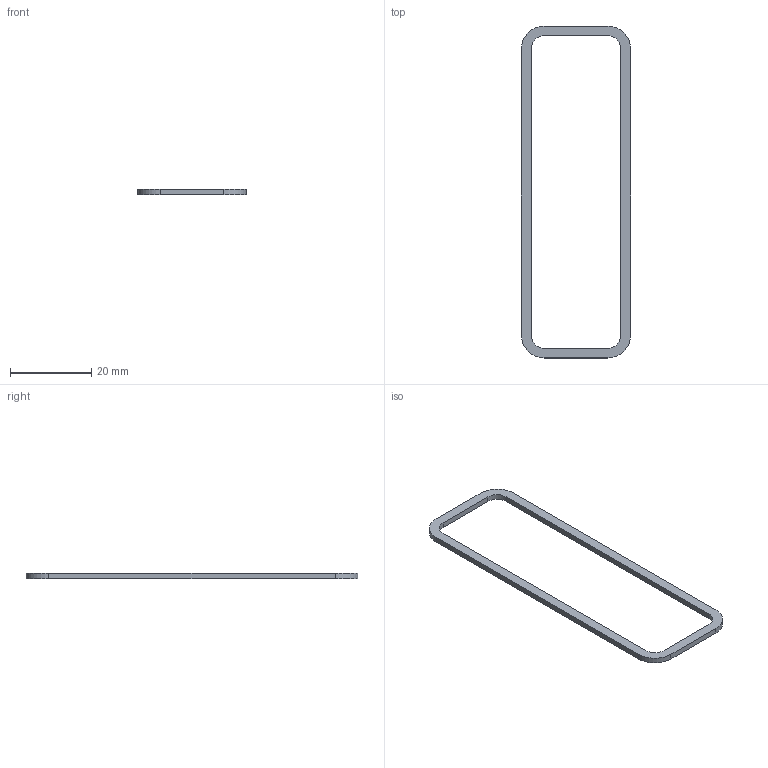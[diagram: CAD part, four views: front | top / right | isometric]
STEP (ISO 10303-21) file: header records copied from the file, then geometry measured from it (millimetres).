
FILE_DESCRIPTION(('Open CASCADE Model'),'2;1');
FILE_NAME('Open CASCADE Shape Model','2026-10-09T15:33:13',('Author'),( 'Open CASCADE'),'Open CASCADE STEP processor 7.9','Open CASCADE 7.9' ,'Unknown');
FILE_SCHEMA(('AUTOMOTIVE_DESIGN { 1 0 10303 214 1 1 1 1 }'));
Length unit declared in the file: millimetre
Products named in the file (1): Open CASCADE STEP translator 7.9 5
Bounding box: 26.8 x 81.6 x 1.4 mm (x, y, z)
Volume: 670.8 mm3; surface area: 1517.3 mm2
Topology: 1 solids, 1 shells, 18 faces, 48 edges, 32 vertices
Faces by surface type: plane 10, cylinder 8
Entity records: 1218 total; most frequent: CARTESIAN_POINT 219, DIRECTION 194, LINE 112, VECTOR 112, ORIENTED_EDGE 96, PCURVE 96, DEFINITIONAL_REPRESENTATION 96, EDGE_CURVE 48
